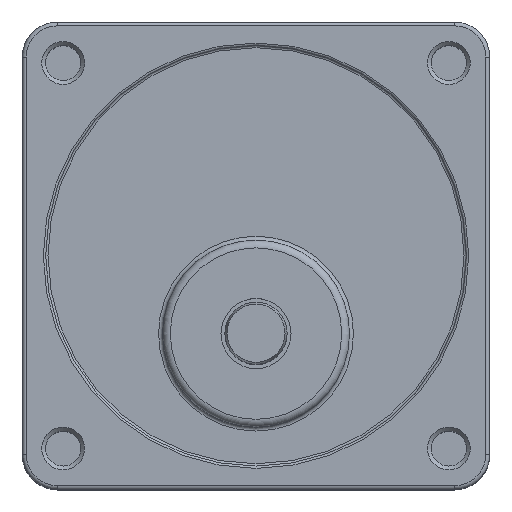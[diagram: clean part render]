
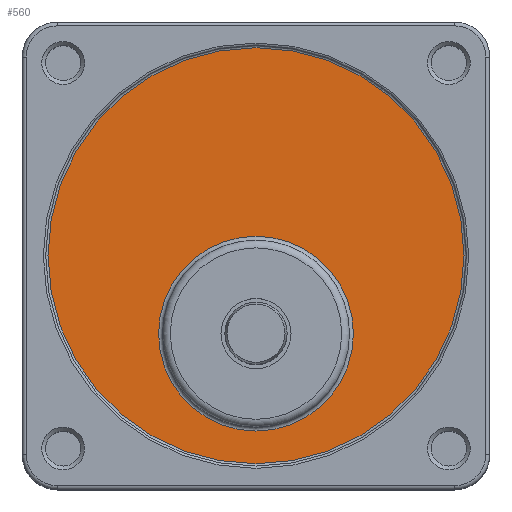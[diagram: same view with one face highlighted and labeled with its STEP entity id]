
A CAD part, top view. The second image highlights one B-rep face of the part: STEP entity #560.
In plain terms, the highlighted planar face has unit normal (0, 0, 1).
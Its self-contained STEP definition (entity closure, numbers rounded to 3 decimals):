
#509=CARTESIAN_POINT('',(42.5,20.0,39.2));
#510=VERTEX_POINT('',#509);
#511=CARTESIAN_POINT('',(30.,20.0,39.2));
#512=DIRECTION('',(0.0,0.0,1.0));
#513=DIRECTION('',(-1.0,0.0,0.0));
#514=AXIS2_PLACEMENT_3D('',#511,#512,#513);
#515=CIRCLE('',#514,12.5);
#516=EDGE_CURVE('',#510,#510,#515,.T.);
#541=CARTESIAN_POINT('',(30.,30.0,39.2));
#542=DIRECTION('',(0.0,0.0,-1.0));
#543=DIRECTION('',(-1.0,0.0,0.0));
#544=AXIS2_PLACEMENT_3D('',#541,#542,#543);
#545=PLANE('',#544);
#546=CARTESIAN_POINT('',(56.699,30.,39.2));
#547=VERTEX_POINT('',#546);
#548=CARTESIAN_POINT('',(30.,30.0,39.2));
#549=DIRECTION('',(0.0,0.0,-1.0));
#550=DIRECTION('',(-1.0,0.0,0.0));
#551=AXIS2_PLACEMENT_3D('',#548,#549,#550);
#552=CIRCLE('',#551,26.699);
#553=EDGE_CURVE('',#547,#547,#552,.T.);
#554=ORIENTED_EDGE('',*,*,#553,.F.);
#555=EDGE_LOOP('',(#554));
#556=FACE_OUTER_BOUND('',#555,.T.);
#557=ORIENTED_EDGE('',*,*,#516,.F.);
#558=EDGE_LOOP('',(#557));
#559=FACE_BOUND('',#558,.T.);
#560=ADVANCED_FACE('',(#556,#559),#545,.F.);
